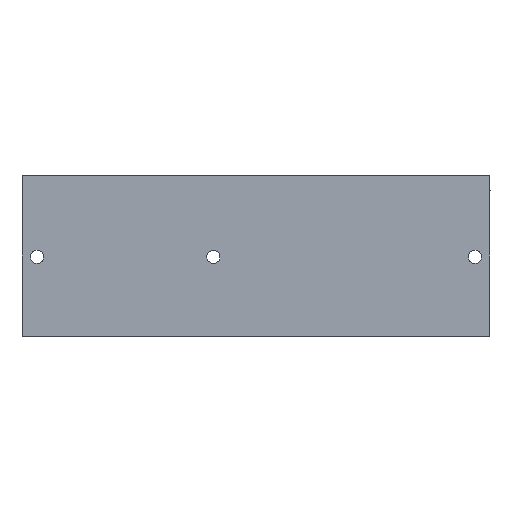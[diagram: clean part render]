
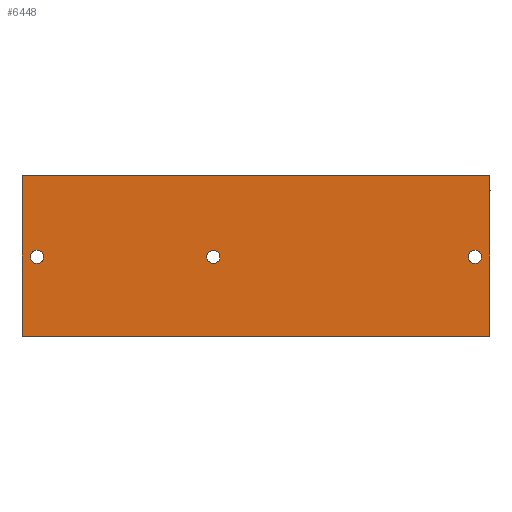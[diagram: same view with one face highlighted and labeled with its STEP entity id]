
A CAD part, front view. The second image highlights one B-rep face of the part: STEP entity #6448.
In plain terms, the highlighted planar face has unit normal (0, -1, 0).
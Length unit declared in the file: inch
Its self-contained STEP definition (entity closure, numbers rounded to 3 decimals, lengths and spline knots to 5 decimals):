
#198 = EDGE_CURVE ( 'NONE', #21544, #4712, #9621, .T. ) ;
#946 = EDGE_CURVE ( 'NONE', #15178, #8009, #15656, .T. ) ;
#1476 = CARTESIAN_POINT ( 'NONE',  ( 0.375, 0., -1.856 ) ) ;
#1666 = DIRECTION ( 'NONE',  ( -1., 0., 0. ) ) ;
#1840 = DIRECTION ( 'NONE',  ( 0., 1., 0. ) ) ;
#2090 = DIRECTION ( 'NONE',  ( 0., 0., 1. ) ) ;
#2117 = DIRECTION ( 'NONE',  ( 0., 1., 0. ) ) ;
#2212 = PLANE ( 'NONE',  #9014 ) ;
#2229 = CARTESIAN_POINT ( 'NONE',  ( 11.63, 0., 0. ) ) ;
#2254 = CARTESIAN_POINT ( 'NONE',  ( 11.255, 0., -2.02 ) ) ;
#2337 = CARTESIAN_POINT ( 'NONE',  ( 11.63, 0., -4. ) ) ;
#2595 = VECTOR ( 'NONE', #22027, 39.37008 ) ;
#2940 = CARTESIAN_POINT ( 'NONE',  ( 11.63, 0., 0. ) ) ;
#3006 = CARTESIAN_POINT ( 'NONE',  ( 11.63, 0., -4. ) ) ;
#3358 = LINE ( 'NONE', #20121, #11073 ) ;
#4017 = DIRECTION ( 'NONE',  ( 0., 0., 1. ) ) ;
#4332 = DIRECTION ( 'NONE',  ( 0., 0., -1. ) ) ;
#4420 = ORIENTED_EDGE ( 'NONE', *, *, #17892, .T. ) ;
#4536 = VERTEX_POINT ( 'NONE', #12466 ) ;
#4712 = VERTEX_POINT ( 'NONE', #1476 ) ;
#4788 = CIRCLE ( 'NONE', #15947, 0.164 ) ;
#4794 = VERTEX_POINT ( 'NONE', #21935 ) ;
#4978 = ORIENTED_EDGE ( 'NONE', *, *, #7531, .F. ) ;
#5019 = DIRECTION ( 'NONE',  ( 0., 1., 0. ) ) ;
#6448 = ADVANCED_FACE ( 'NONE', ( #7185, #14929, #19576, #10238 ), #2212, .F. ) ;
#6802 = EDGE_CURVE ( 'NONE', #4536, #9712, #21775, .T. ) ;
#7185 = FACE_BOUND ( 'NONE', #14784, .T. ) ;
#7531 = EDGE_CURVE ( 'NONE', #9670, #4794, #13772, .T. ) ;
#7748 = ORIENTED_EDGE ( 'NONE', *, *, #12315, .T. ) ;
#8009 = VERTEX_POINT ( 'NONE', #11472 ) ;
#8274 = AXIS2_PLACEMENT_3D ( 'NONE', #22578, #22560, #22538 ) ;
#9014 = AXIS2_PLACEMENT_3D ( 'NONE', #2229, #2117, #2090 ) ;
#9093 = VECTOR ( 'NONE', #1666, 39.37008 ) ;
#9346 = CARTESIAN_POINT ( 'NONE',  ( 0.375, 0., -2.184 ) ) ;
#9621 = CIRCLE ( 'NONE', #19526, 0.164 ) ;
#9670 = VERTEX_POINT ( 'NONE', #3006 ) ;
#9712 = VERTEX_POINT ( 'NONE', #15477 ) ;
#10238 = FACE_OUTER_BOUND ( 'NONE', #10904, .T. ) ;
#10904 = EDGE_LOOP ( 'NONE', ( #4420, #4978, #16039, #7748 ) ) ;
#11073 = VECTOR ( 'NONE', #4332, 39.37008 ) ;
#11275 = DIRECTION ( 'NONE',  ( 0., 0., 1. ) ) ;
#11292 = DIRECTION ( 'NONE',  ( 0., 1., 0. ) ) ;
#11310 = CARTESIAN_POINT ( 'NONE',  ( 11.255, 0., -2.02 ) ) ;
#11472 = CARTESIAN_POINT ( 'NONE',  ( 11.255, 0., -1.856 ) ) ;
#11504 = CARTESIAN_POINT ( 'NONE',  ( 11.63, 0., 0. ) ) ;
#12142 = ORIENTED_EDGE ( 'NONE', *, *, #6802, .T. ) ;
#12201 = EDGE_CURVE ( 'NONE', #8009, #15178, #4788, .T. ) ;
#12315 = EDGE_CURVE ( 'NONE', #21665, #15646, #20765, .T. ) ;
#12384 = CARTESIAN_POINT ( 'NONE',  ( 0.375, 0., -2.02 ) ) ;
#12466 = CARTESIAN_POINT ( 'NONE',  ( 4.755, 0., -1.856 ) ) ;
#13241 = ORIENTED_EDGE ( 'NONE', *, *, #22105, .T. ) ;
#13772 = LINE ( 'NONE', #2337, #9093 ) ;
#14173 = DIRECTION ( 'NONE',  ( 0., 0., 1. ) ) ;
#14572 = CARTESIAN_POINT ( 'NONE',  ( 11.255, 0., -2.184 ) ) ;
#14606 = DIRECTION ( 'NONE',  ( 0., 1., 0. ) ) ;
#14658 = ORIENTED_EDGE ( 'NONE', *, *, #12201, .T. ) ;
#14784 = EDGE_LOOP ( 'NONE', ( #12142, #13241 ) ) ;
#14929 = FACE_BOUND ( 'NONE', #15045, .T. ) ;
#15045 = EDGE_LOOP ( 'NONE', ( #20116, #16551 ) ) ;
#15178 = VERTEX_POINT ( 'NONE', #14572 ) ;
#15477 = CARTESIAN_POINT ( 'NONE',  ( 4.755, 0., -2.184 ) ) ;
#15602 = CARTESIAN_POINT ( 'NONE',  ( 4.755, 0., -2.02 ) ) ;
#15646 = VERTEX_POINT ( 'NONE', #19583 ) ;
#15656 = CIRCLE ( 'NONE', #18508, 0.164 ) ;
#15947 = AXIS2_PLACEMENT_3D ( 'NONE', #2254, #14606, #4017 ) ;
#16039 = ORIENTED_EDGE ( 'NONE', *, *, #17686, .F. ) ;
#16143 = EDGE_LOOP ( 'NONE', ( #14658, #19850 ) ) ;
#16551 = ORIENTED_EDGE ( 'NONE', *, *, #198, .T. ) ;
#16565 = VECTOR ( 'NONE', #17128, 39.37008 ) ;
#17128 = DIRECTION ( 'NONE',  ( 0., 0., -1. ) ) ;
#17164 = CIRCLE ( 'NONE', #21010, 0.164 ) ;
#17350 = DIRECTION ( 'NONE',  ( 0., 0., 1. ) ) ;
#17686 = EDGE_CURVE ( 'NONE', #21665, #9670, #3358, .T. ) ;
#17892 = EDGE_CURVE ( 'NONE', #15646, #4794, #21250, .T. ) ;
#18508 = AXIS2_PLACEMENT_3D ( 'NONE', #11310, #11292, #11275 ) ;
#19526 = AXIS2_PLACEMENT_3D ( 'NONE', #21101, #21096, #21065 ) ;
#19576 = FACE_BOUND ( 'NONE', #16143, .T. ) ;
#19583 = CARTESIAN_POINT ( 'NONE',  ( 0., 0., 0. ) ) ;
#19850 = ORIENTED_EDGE ( 'NONE', *, *, #946, .T. ) ;
#20011 = EDGE_CURVE ( 'NONE', #4712, #21544, #21759, .T. ) ;
#20116 = ORIENTED_EDGE ( 'NONE', *, *, #20011, .T. ) ;
#20121 = CARTESIAN_POINT ( 'NONE',  ( 11.63, 0., 0. ) ) ;
#20765 = LINE ( 'NONE', #11504, #2595 ) ;
#21010 = AXIS2_PLACEMENT_3D ( 'NONE', #15602, #5019, #17350 ) ;
#21065 = DIRECTION ( 'NONE',  ( 0., 0., 1. ) ) ;
#21096 = DIRECTION ( 'NONE',  ( 0., 1., 0. ) ) ;
#21101 = CARTESIAN_POINT ( 'NONE',  ( 0.375, 0., -2.02 ) ) ;
#21250 = LINE ( 'NONE', #22364, #16565 ) ;
#21544 = VERTEX_POINT ( 'NONE', #9346 ) ;
#21665 = VERTEX_POINT ( 'NONE', #2940 ) ;
#21759 = CIRCLE ( 'NONE', #22598, 0.164 ) ;
#21775 = CIRCLE ( 'NONE', #8274, 0.164 ) ;
#21935 = CARTESIAN_POINT ( 'NONE',  ( 0., 0., -4. ) ) ;
#22027 = DIRECTION ( 'NONE',  ( -1., 0., 0. ) ) ;
#22105 = EDGE_CURVE ( 'NONE', #9712, #4536, #17164, .T. ) ;
#22364 = CARTESIAN_POINT ( 'NONE',  ( 0., 0., 0. ) ) ;
#22538 = DIRECTION ( 'NONE',  ( 0., 0., 1. ) ) ;
#22560 = DIRECTION ( 'NONE',  ( 0., 1., 0. ) ) ;
#22578 = CARTESIAN_POINT ( 'NONE',  ( 4.755, 0., -2.02 ) ) ;
#22598 = AXIS2_PLACEMENT_3D ( 'NONE', #12384, #1840, #14173 ) ;
